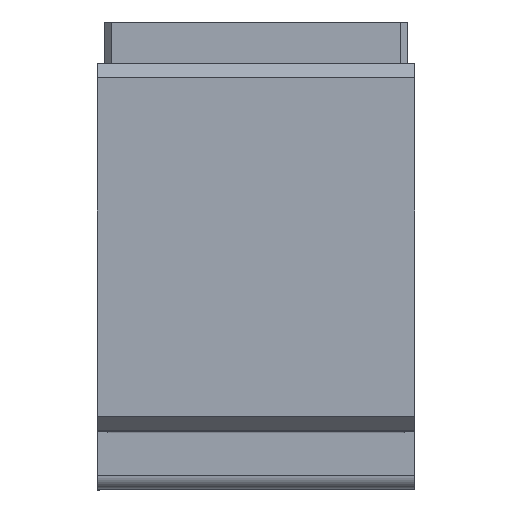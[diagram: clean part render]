
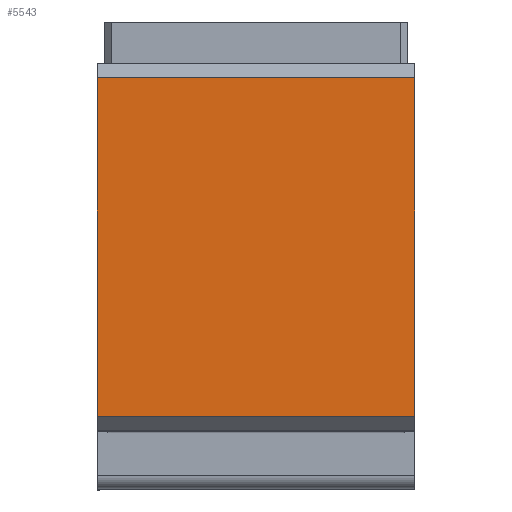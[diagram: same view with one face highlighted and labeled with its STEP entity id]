
A CAD part, top view. The second image highlights one B-rep face of the part: STEP entity #5543.
In plain terms, the highlighted planar face has unit normal (0, 0, 1) as drawn and (1, 0, 0) by its records, which use the part's own axes.
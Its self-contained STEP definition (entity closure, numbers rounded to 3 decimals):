
#22 = CARTESIAN_POINT ( 'NONE',  ( 55., 52., 0. ) ) ;
#330 = ORIENTED_EDGE ( 'NONE', *, *, #2317, .F. ) ;
#337 = VECTOR ( 'NONE', #843, 1000. ) ;
#409 = EDGE_CURVE ( 'NONE', #4724, #1683, #2503, .T. ) ;
#843 = DIRECTION ( 'NONE',  ( 0., 0., -1. ) ) ;
#970 = ORIENTED_EDGE ( 'NONE', *, *, #5691, .T. ) ;
#1148 = LINE ( 'NONE', #5058, #5895 ) ;
#1338 = CARTESIAN_POINT ( 'NONE',  ( 55., 2., 45. ) ) ;
#1446 = ORIENTED_EDGE ( 'NONE', *, *, #409, .F. ) ;
#1613 = AXIS2_PLACEMENT_3D ( 'NONE', #22, #2443, #5928 ) ;
#1638 = DIRECTION ( 'NONE',  ( 0., -1., 0. ) ) ;
#1683 = VERTEX_POINT ( 'NONE', #1338 ) ;
#2235 = ORIENTED_EDGE ( 'NONE', *, *, #4884, .T. ) ;
#2317 = EDGE_CURVE ( 'NONE', #2342, #2561, #5557, .T. ) ;
#2342 = VERTEX_POINT ( 'NONE', #4236 ) ;
#2443 = DIRECTION ( 'NONE',  ( 1., 0., 0. ) ) ;
#2476 = CARTESIAN_POINT ( 'NONE',  ( 55., 50., 0. ) ) ;
#2503 = LINE ( 'NONE', #2567, #2666 ) ;
#2539 = PLANE ( 'NONE',  #1613 ) ;
#2561 = VERTEX_POINT ( 'NONE', #2476 ) ;
#2567 = CARTESIAN_POINT ( 'NONE',  ( 55., 2., 0. ) ) ;
#2666 = VECTOR ( 'NONE', #3515, 1000. ) ;
#2852 = CARTESIAN_POINT ( 'NONE',  ( 55., 2., 0. ) ) ;
#3050 = CARTESIAN_POINT ( 'NONE',  ( 55., 0., 45. ) ) ;
#3515 = DIRECTION ( 'NONE',  ( 0., 0., 1. ) ) ;
#3577 = DIRECTION ( 'NONE',  ( 0., 1., 0. ) ) ;
#4236 = CARTESIAN_POINT ( 'NONE',  ( 55., 50., 45. ) ) ;
#4674 = VECTOR ( 'NONE', #1638, 1000. ) ;
#4724 = VERTEX_POINT ( 'NONE', #2852 ) ;
#4846 = LINE ( 'NONE', #3050, #4674 ) ;
#4884 = EDGE_CURVE ( 'NONE', #4724, #2561, #1148, .T. ) ;
#4970 = FACE_OUTER_BOUND ( 'NONE', #5546, .T. ) ;
#5058 = CARTESIAN_POINT ( 'NONE',  ( 55., 0., 0. ) ) ;
#5543 = ADVANCED_FACE ( 'NONE', ( #4970 ), #2539, .T. ) ;
#5546 = EDGE_LOOP ( 'NONE', ( #1446, #2235, #330, #970 ) ) ;
#5557 = LINE ( 'NONE', #6096, #337 ) ;
#5691 = EDGE_CURVE ( 'NONE', #2342, #1683, #4846, .T. ) ;
#5895 = VECTOR ( 'NONE', #3577, 1000. ) ;
#5928 = DIRECTION ( 'NONE',  ( 0., 0., 1. ) ) ;
#6096 = CARTESIAN_POINT ( 'NONE',  ( 55., 50., 0. ) ) ;
